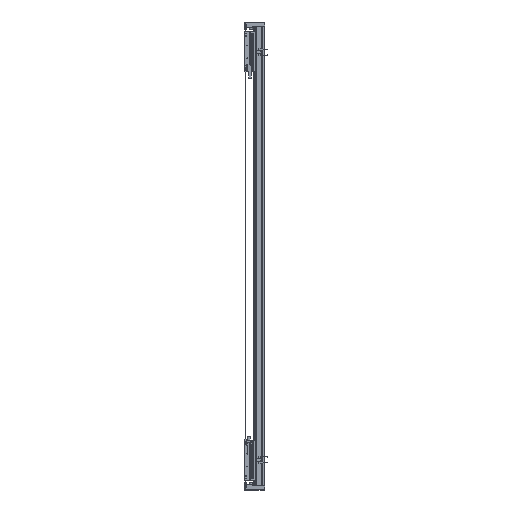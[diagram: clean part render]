
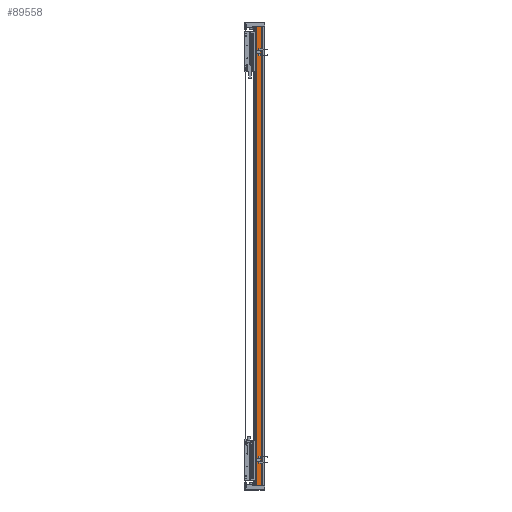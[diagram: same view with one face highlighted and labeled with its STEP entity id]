
A CAD part, left-side view. The second image highlights one B-rep face of the part: STEP entity #89558.
In plain terms, the highlighted planar face has unit normal (-1, 0, 0).
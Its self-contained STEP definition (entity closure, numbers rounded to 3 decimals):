
#2431 = VECTOR ( 'NONE', #12228, 1000. ) ;
#2773 = LINE ( 'NONE', #40794, #31668 ) ;
#9556 = FACE_OUTER_BOUND ( 'NONE', #23213, .T. ) ;
#12228 = DIRECTION ( 'NONE',  ( 0., -1., 0. ) ) ;
#15844 = ORIENTED_EDGE ( 'NONE', *, *, #35482, .T. ) ;
#17824 = LINE ( 'NONE', #124220, #120295 ) ;
#19687 = LINE ( 'NONE', #69077, #20097 ) ;
#20097 = VECTOR ( 'NONE', #48178, 1000. ) ;
#21860 = AXIS2_PLACEMENT_3D ( 'NONE', #38727, #46312, #84315 ) ;
#22648 = EDGE_CURVE ( 'NONE', #89181, #66140, #19687, .T. ) ;
#23213 = EDGE_LOOP ( 'NONE', ( #15844, #29157, #97898, #60072 ) ) ;
#29157 = ORIENTED_EDGE ( 'NONE', *, *, #119953, .F. ) ;
#29369 = CARTESIAN_POINT ( 'NONE',  ( -82.5, 36.95, 1080. ) ) ;
#31668 = VECTOR ( 'NONE', #78168, 1000. ) ;
#35482 = EDGE_CURVE ( 'NONE', #66140, #84724, #48344, .T. ) ;
#38727 = CARTESIAN_POINT ( 'NONE',  ( -82.5, 36.95, 1080. ) ) ;
#39660 = CARTESIAN_POINT ( 'NONE',  ( -82.5, 14.45, 1080. ) ) ;
#40794 = CARTESIAN_POINT ( 'NONE',  ( -82.5, 14.45, 1080. ) ) ;
#42126 = VERTEX_POINT ( 'NONE', #39660 ) ;
#46312 = DIRECTION ( 'NONE',  ( 1., 0., 0. ) ) ;
#46972 = DIRECTION ( 'NONE',  ( 0., -1., 0. ) ) ;
#48178 = DIRECTION ( 'NONE',  ( 0., 0., -1. ) ) ;
#48344 = LINE ( 'NONE', #50211, #2431 ) ;
#50211 = CARTESIAN_POINT ( 'NONE',  ( -82.5, 36.95, -1080. ) ) ;
#60072 = ORIENTED_EDGE ( 'NONE', *, *, #22648, .T. ) ;
#64371 = CARTESIAN_POINT ( 'NONE',  ( -82.5, 36.95, -1080. ) ) ;
#66140 = VERTEX_POINT ( 'NONE', #64371 ) ;
#69077 = CARTESIAN_POINT ( 'NONE',  ( -82.5, 36.95, 1080. ) ) ;
#78168 = DIRECTION ( 'NONE',  ( 0., 0., -1. ) ) ;
#84315 = DIRECTION ( 'NONE',  ( 0., 1., 0. ) ) ;
#84724 = VERTEX_POINT ( 'NONE', #96486 ) ;
#86144 = EDGE_CURVE ( 'NONE', #89181, #42126, #17824, .T. ) ;
#89181 = VERTEX_POINT ( 'NONE', #29369 ) ;
#89558 = ADVANCED_FACE ( 'NONE', ( #9556 ), #115971, .F. ) ;
#96486 = CARTESIAN_POINT ( 'NONE',  ( -82.5, 14.45, -1080. ) ) ;
#97898 = ORIENTED_EDGE ( 'NONE', *, *, #86144, .F. ) ;
#115971 = PLANE ( 'NONE',  #21860 ) ;
#119953 = EDGE_CURVE ( 'NONE', #42126, #84724, #2773, .T. ) ;
#120295 = VECTOR ( 'NONE', #46972, 1000. ) ;
#124220 = CARTESIAN_POINT ( 'NONE',  ( -82.5, 36.95, 1080. ) ) ;
